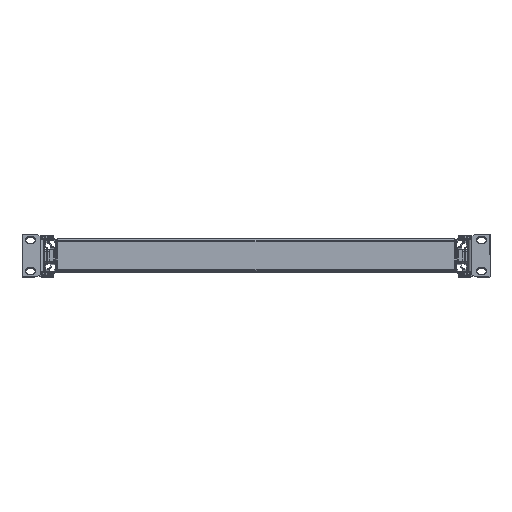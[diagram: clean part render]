
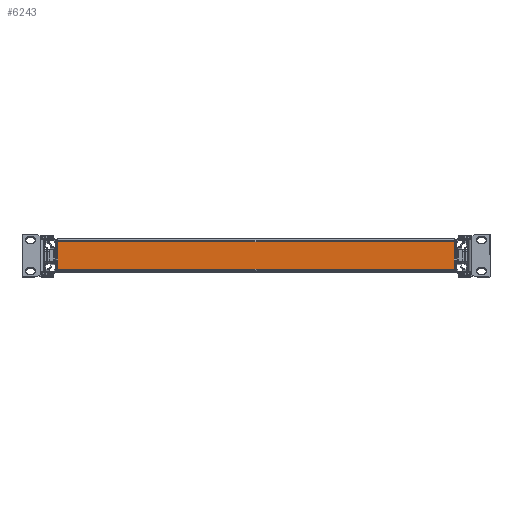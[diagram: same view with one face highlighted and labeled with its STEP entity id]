
A CAD part, top view. The second image highlights one B-rep face of the part: STEP entity #6243.
In plain terms, the highlighted planar face has unit normal (0, 0, 1).
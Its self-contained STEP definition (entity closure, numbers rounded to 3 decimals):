
#677 = LINE ( 'NONE', #40632, #2100 ) ;
#1831 = ORIENTED_EDGE ( 'NONE', *, *, #24279, .T. ) ;
#2100 = VECTOR ( 'NONE', #53657, 1000. ) ;
#2386 = LINE ( 'NONE', #11361, #22448 ) ;
#2572 = DIRECTION ( 'NONE',  ( -1., 0., 0. ) ) ;
#6243 = ADVANCED_FACE ( 'NONE', ( #34072 ), #20715, .T. ) ;
#8099 = EDGE_CURVE ( 'NONE', #35992, #15932, #38126, .T. ) ;
#10561 = AXIS2_PLACEMENT_3D ( 'NONE', #48626, #57191, #38992 ) ;
#11361 = CARTESIAN_POINT ( 'NONE',  ( 204.3, -32.6, 275. ) ) ;
#11788 = CARTESIAN_POINT ( 'NONE',  ( -207.2, -1.5, 275. ) ) ;
#12970 = LINE ( 'NONE', #41559, #15867 ) ;
#15484 = CARTESIAN_POINT ( 'NONE',  ( 204.3, -1.5, 275. ) ) ;
#15867 = VECTOR ( 'NONE', #19035, 1000. ) ;
#15932 = VERTEX_POINT ( 'NONE', #31536 ) ;
#19010 = ORIENTED_EDGE ( 'NONE', *, *, #41437, .T. ) ;
#19035 = DIRECTION ( 'NONE',  ( 1., 0., 0. ) ) ;
#20715 = PLANE ( 'NONE',  #10561 ) ;
#20827 = VERTEX_POINT ( 'NONE', #41983 ) ;
#22448 = VECTOR ( 'NONE', #25396, 1000. ) ;
#24279 = EDGE_CURVE ( 'NONE', #46421, #20827, #12970, .T. ) ;
#25396 = DIRECTION ( 'NONE',  ( 0., 1., 0. ) ) ;
#27331 = CARTESIAN_POINT ( 'NONE',  ( -204.3, -29.7, 275. ) ) ;
#31536 = CARTESIAN_POINT ( 'NONE',  ( -204.3, -1.5, 275. ) ) ;
#34072 = FACE_OUTER_BOUND ( 'NONE', #38706, .T. ) ;
#34158 = ORIENTED_EDGE ( 'NONE', *, *, #8099, .T. ) ;
#35561 = EDGE_CURVE ( 'NONE', #20827, #35992, #2386, .T. ) ;
#35992 = VERTEX_POINT ( 'NONE', #15484 ) ;
#38126 = LINE ( 'NONE', #11788, #39536 ) ;
#38706 = EDGE_LOOP ( 'NONE', ( #19010, #1831, #55076, #34158 ) ) ;
#38992 = DIRECTION ( 'NONE',  ( 0., -1., 0. ) ) ;
#39536 = VECTOR ( 'NONE', #2572, 1000. ) ;
#40632 = CARTESIAN_POINT ( 'NONE',  ( -204.3, -1.5, 275. ) ) ;
#41437 = EDGE_CURVE ( 'NONE', #15932, #46421, #677, .T. ) ;
#41559 = CARTESIAN_POINT ( 'NONE',  ( -204.3, -29.7, 275. ) ) ;
#41983 = CARTESIAN_POINT ( 'NONE',  ( 204.3, -29.7, 275. ) ) ;
#46421 = VERTEX_POINT ( 'NONE', #27331 ) ;
#48626 = CARTESIAN_POINT ( 'NONE',  ( -207.2, 0., 275. ) ) ;
#53657 = DIRECTION ( 'NONE',  ( 0., -1., 0. ) ) ;
#55076 = ORIENTED_EDGE ( 'NONE', *, *, #35561, .T. ) ;
#57191 = DIRECTION ( 'NONE',  ( 0., 0., 1. ) ) ;
